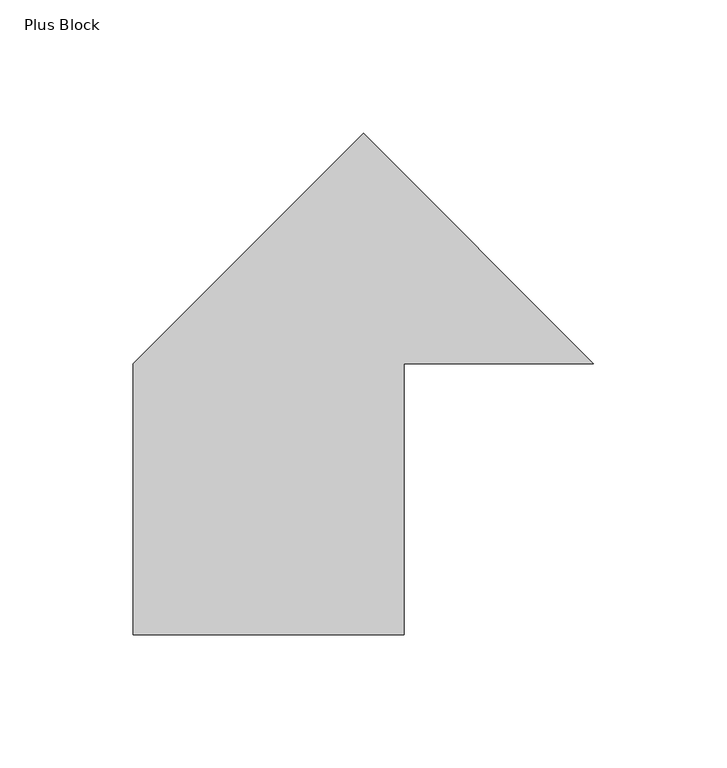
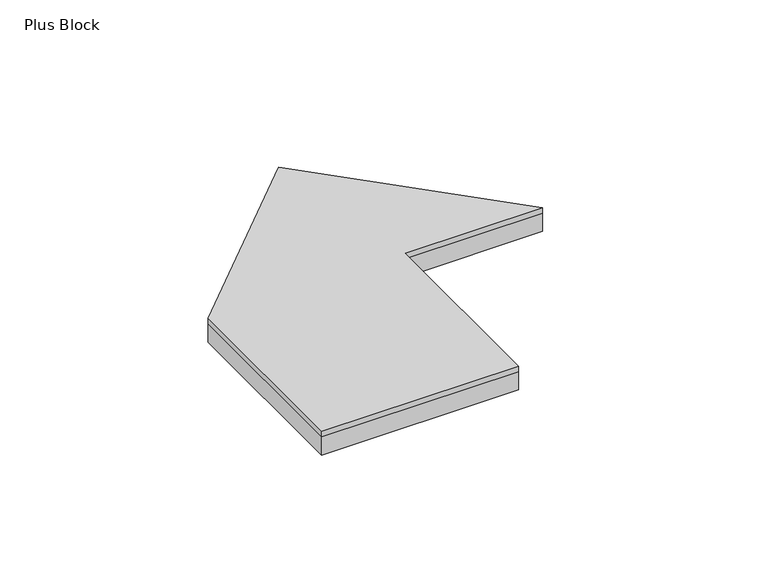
"""IFC4 building model written with IfcOpenShell, lengths in millimetres: proxy geometry, FilzFelt_Plus_Block : Plus Block."""

from ifc_helpers import new_model, si_unit, frame, origin, origin_with_axes, place, context, project, spatial, polyline, outline, extrude, source, transform, mapped, element, save


def plus_block_a1df5cec(model_context):
    return source(origin(), model_context, "Body", "SweptSolid", [
        extrude(outline(polyline([(50.8333333, -50.8333333), (50.8333333, -152.5), (-50.8333333, -152.5), (-50.8333333, -50.8333333), (35.5426663, 35.5426663), (121.918666, -50.8333333), (50.8333333, -50.8333333)])), frame((0.0, 0.0, 10.0210937), z_axis=(0.0, 0.0, 1.0), x_axis=(1.0, 0.0, 0.0)), (0.0, 0.0, 1.0), 2.9765625),
        extrude(outline(polyline([(50.8333333, -50.8333333), (50.8333333, -152.5), (-50.8333333, -152.5), (-50.8333333, -50.8333333), (35.5426663, 35.5426663), (121.918666, -50.8333333), (50.8333333, -50.8333333)])), origin_with_axes(), (0.0, 0.0, 1.0), 10.0210938),
    ])


if __name__ == "__main__":
    model = new_model("IFC4")
    model_context = context("Model", 3, world=origin())
    ifc_project = project(units=[si_unit("LENGTHUNIT", "METRE", prefix="MILLI")], contexts=[model_context])
    site = spatial("IfcSite", under=ifc_project)
    building = spatial("IfcBuilding", under=site)
    placement = place(None, origin())
    plus_block_shape = plus_block_a1df5cec(model_context)
    element("IfcBuildingElementProxy", 1, Name="FilzFelt_Plus_Block : Plus Block", ObjectType="FilzFelt_Plus_Block : Plus Block", at=placement, inside=building, context=model_context, shape_type="MappedRepresentation", body=[
        mapped(plus_block_shape, transform((0.0, 0.0, 0.0), x_axis=(1.0, 0.0, 0.0), y_axis=(0.0, 1.0, 0.0), z_axis=(0.0, 0.0, 1.0))),
    ])
    save(model, "model.ifc")
